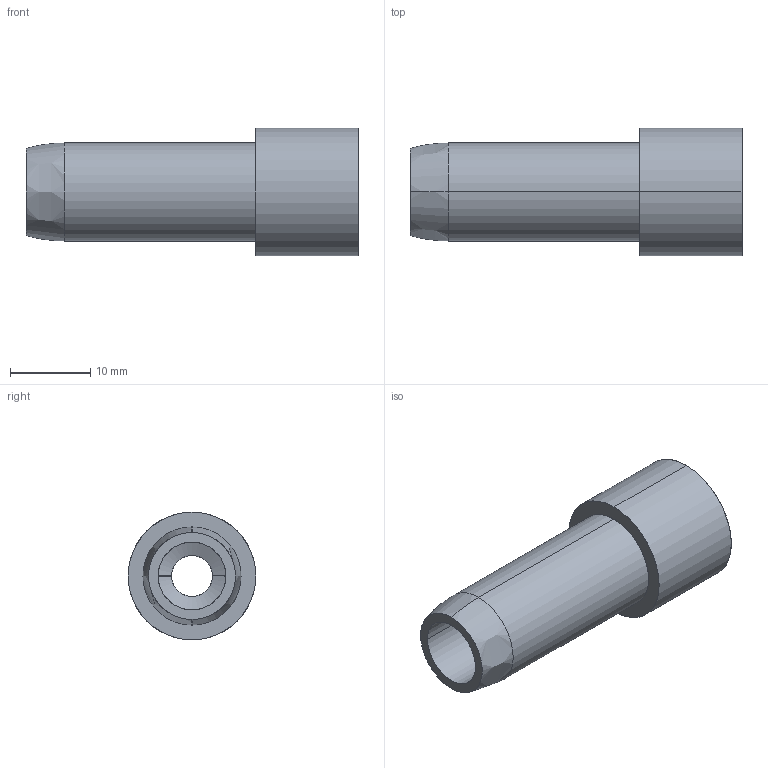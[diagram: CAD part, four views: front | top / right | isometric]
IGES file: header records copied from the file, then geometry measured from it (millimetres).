
Start section: SolidWorks IGES file using analytic representation for surfaces
Global section: file name: \\SERVER3\Design\_New Design Drive Folder List\_Design Vault\AAI\Modular Round Tube Connectors\Solidworks Models\Modular Connectors\0.500 In. Modular Connectors\Basic Models\0.500 In. Threaded End Connector.IGS; native system: SolidWorks 2013; preprocessor: SolidWorks 2013; author: tbraun; date: 140807.145110; units: inch
Bounding box: 41.27 x 15.88 x 15.88 mm (x, y, z)
Surface area: 3016.8 mm2 (no closed solid volume)
Topology: 0 solids, 0 shells, 15 faces, 244 edges, 244 vertices
Faces by surface type: revolution 10, bspline 5
